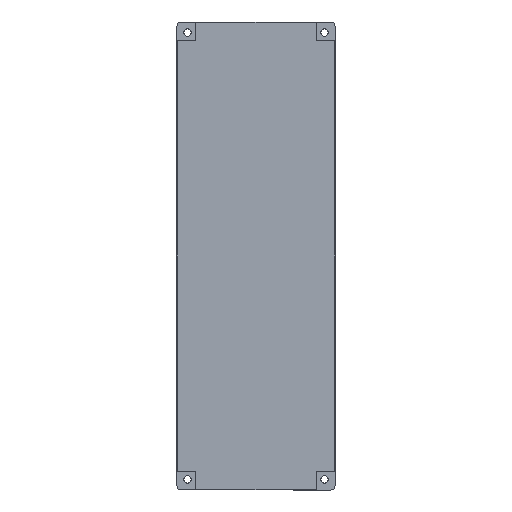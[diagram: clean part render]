
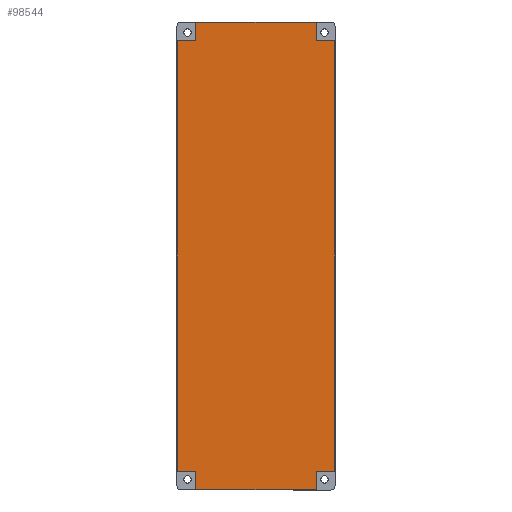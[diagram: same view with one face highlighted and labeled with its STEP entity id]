
A CAD part, front view. The second image highlights one B-rep face of the part: STEP entity #98544.
In plain terms, the highlighted planar face has unit normal (0, -1, 0).
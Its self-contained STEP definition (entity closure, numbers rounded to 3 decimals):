
#75160 = DIRECTION ( 'NONE',  ( 0., 0., -1. ) ) ;
#75161 = VECTOR ( 'NONE', #75160, 1000. ) ;
#75162 = CARTESIAN_POINT ( 'NONE',  ( -66., -8., -0.1 ) ) ;
#75163 = LINE ( 'NONE', #75162, #75161 ) ;
#75169 = CARTESIAN_POINT ( 'NONE',  ( -66., -8., -9. ) ) ;
#75200 = CARTESIAN_POINT ( 'NONE',  ( -74.9, -8., -9. ) ) ;
#75232 = CARTESIAN_POINT ( 'NONE',  ( -66., -8., -221.9 ) ) ;
#75233 = CARTESIAN_POINT ( 'NONE',  ( -66., -8., -213. ) ) ;
#75234 = CARTESIAN_POINT ( 'NONE',  ( -74.9, -8., -213. ) ) ;
#75238 = LINE ( 'NONE', #75287, #75286 ) ;
#75239 = DIRECTION ( 'NONE',  ( 0., 0., -1. ) ) ;
#75240 = VECTOR ( 'NONE', #75239, 1000. ) ;
#75241 = CARTESIAN_POINT ( 'NONE',  ( -66., -8., -0.1 ) ) ;
#75242 = LINE ( 'NONE', #75241, #75240 ) ;
#75285 = DIRECTION ( 'NONE',  ( 1., 0., 0. ) ) ;
#75286 = VECTOR ( 'NONE', #75285, 1000. ) ;
#75287 = CARTESIAN_POINT ( 'NONE',  ( -74.9, -8., -213. ) ) ;
#75304 = DIRECTION ( 'NONE',  ( -1., 0., 0. ) ) ;
#75305 = VECTOR ( 'NONE', #75304, 1000. ) ;
#75306 = CARTESIAN_POINT ( 'NONE',  ( -74.9, -8., -9. ) ) ;
#75308 = LINE ( 'NONE', #75306, #75305 ) ;
#75309 = DIRECTION ( 'NONE',  ( 0., 0., -1. ) ) ;
#75310 = VECTOR ( 'NONE', #75309, 1000. ) ;
#75311 = CARTESIAN_POINT ( 'NONE',  ( -74.9, -8., -0.1 ) ) ;
#75312 = LINE ( 'NONE', #75311, #75310 ) ;
#75360 = DIRECTION ( 'NONE',  ( 0., 0., 1. ) ) ;
#75361 = VECTOR ( 'NONE', #75360, 1000. ) ;
#75362 = CARTESIAN_POINT ( 'NONE',  ( -9., -8., -0.1 ) ) ;
#75363 = LINE ( 'NONE', #75362, #75361 ) ;
#75386 = CARTESIAN_POINT ( 'NONE',  ( -9., -8., -221.9 ) ) ;
#75444 = DIRECTION ( 'NONE',  ( 1., 0., 0. ) ) ;
#75445 = VECTOR ( 'NONE', #75444, 1000. ) ;
#75446 = CARTESIAN_POINT ( 'NONE',  ( -74.9, -8., -221.9 ) ) ;
#75447 = LINE ( 'NONE', #75446, #75445 ) ;
#75648 = FACE_OUTER_BOUND ( 'NONE', #98455, .T. ) ;
#75685 = DIRECTION ( 'NONE',  ( 0., 0., -1. ) ) ;
#75686 = DIRECTION ( 'NONE',  ( 0., -1., 0. ) ) ;
#75687 = CARTESIAN_POINT ( 'NONE',  ( -74.9, -8., -0.1 ) ) ;
#75688 = AXIS2_PLACEMENT_3D ( 'NONE', #75687, #75686, #75685 ) ;
#75689 = PLANE ( 'NONE',  #75688 ) ;
#94972 = DIRECTION ( 'NONE',  ( 0., 0., 1. ) ) ;
#94973 = VECTOR ( 'NONE', #94972, 1000. ) ;
#94974 = CARTESIAN_POINT ( 'NONE',  ( -0.1, -8., -0.1 ) ) ;
#94976 = LINE ( 'NONE', #94974, #94973 ) ;
#94981 = CARTESIAN_POINT ( 'NONE',  ( -0.1, -8., -9. ) ) ;
#95097 = DIRECTION ( 'NONE',  ( -1., 0., 0. ) ) ;
#95099 = VECTOR ( 'NONE', #95097, 1000. ) ;
#95101 = CARTESIAN_POINT ( 'NONE',  ( -74.9, -8., -9. ) ) ;
#95102 = LINE ( 'NONE', #95101, #95099 ) ;
#95108 = CARTESIAN_POINT ( 'NONE',  ( -9., -8., -9. ) ) ;
#95202 = DIRECTION ( 'NONE',  ( 0., 0., 1. ) ) ;
#95204 = VECTOR ( 'NONE', #95202, 1000. ) ;
#95206 = CARTESIAN_POINT ( 'NONE',  ( -9., -8., -0.1 ) ) ;
#95207 = LINE ( 'NONE', #95206, #95204 ) ;
#95227 = CARTESIAN_POINT ( 'NONE',  ( -9., -8., -0.1 ) ) ;
#95283 = CARTESIAN_POINT ( 'NONE',  ( -66., -8., -0.1 ) ) ;
#95628 = CARTESIAN_POINT ( 'NONE',  ( -9., -8., -213. ) ) ;
#95630 = DIRECTION ( 'NONE',  ( 1., 0., 0. ) ) ;
#95632 = VECTOR ( 'NONE', #95630, 1000. ) ;
#95633 = CARTESIAN_POINT ( 'NONE',  ( -74.9, -8., -213. ) ) ;
#95635 = LINE ( 'NONE', #95633, #95632 ) ;
#95640 = CARTESIAN_POINT ( 'NONE',  ( -0.1, -8., -213. ) ) ;
#96057 = DIRECTION ( 'NONE',  ( -1., 0., 0. ) ) ;
#96059 = VECTOR ( 'NONE', #96057, 1000. ) ;
#96061 = CARTESIAN_POINT ( 'NONE',  ( -74.9, -8., -0.1 ) ) ;
#96062 = LINE ( 'NONE', #96061, #96059 ) ;
#98220 = VERTEX_POINT ( 'NONE', #75169 ) ;
#98228 = EDGE_CURVE ( 'NONE', #102886, #98220, #75163, .T. ) ;
#98232 = VERTEX_POINT ( 'NONE', #75200 ) ;
#98274 = ORIENTED_EDGE ( 'NONE', *, *, #98326, .T. ) ;
#98275 = ORIENTED_EDGE ( 'NONE', *, *, #98304, .T. ) ;
#98276 = VERTEX_POINT ( 'NONE', #75234 ) ;
#98277 = VERTEX_POINT ( 'NONE', #75233 ) ;
#98278 = VERTEX_POINT ( 'NONE', #75232 ) ;
#98296 = EDGE_CURVE ( 'NONE', #98277, #98278, #75242, .T. ) ;
#98304 = EDGE_CURVE ( 'NONE', #98276, #98277, #75238, .T. ) ;
#98326 = EDGE_CURVE ( 'NONE', #98232, #98276, #75312, .T. ) ;
#98333 = EDGE_CURVE ( 'NONE', #98220, #98232, #75308, .T. ) ;
#98363 = EDGE_CURVE ( 'NONE', #98383, #102959, #75363, .T. ) ;
#98371 = ORIENTED_EDGE ( 'NONE', *, *, #98363, .T. ) ;
#98373 = ORIENTED_EDGE ( 'NONE', *, *, #102958, .T. ) ;
#98383 = VERTEX_POINT ( 'NONE', #75386 ) ;
#98387 = ORIENTED_EDGE ( 'NONE', *, *, #102832, .T. ) ;
#98388 = ORIENTED_EDGE ( 'NONE', *, *, #102868, .T. ) ;
#98423 = ORIENTED_EDGE ( 'NONE', *, *, #102877, .T. ) ;
#98425 = ORIENTED_EDGE ( 'NONE', *, *, #103039, .T. ) ;
#98426 = ORIENTED_EDGE ( 'NONE', *, *, #98228, .T. ) ;
#98427 = ORIENTED_EDGE ( 'NONE', *, *, #98333, .T. ) ;
#98428 = EDGE_CURVE ( 'NONE', #98278, #98383, #75447, .T. ) ;
#98430 = ORIENTED_EDGE ( 'NONE', *, *, #98296, .T. ) ;
#98455 = EDGE_LOOP ( 'NONE', ( #98480, #98371, #98373, #98387, #98388, #98423, #98425, #98426, #98427, #98274, #98275, #98430 ) ) ;
#98480 = ORIENTED_EDGE ( 'NONE', *, *, #98428, .T. ) ;
#98544 = ADVANCED_FACE ( 'NONE', ( #75648 ), #75689, .T. ) ;
#102829 = VERTEX_POINT ( 'NONE', #94981 ) ;
#102832 = EDGE_CURVE ( 'NONE', #102955, #102829, #94976, .T. ) ;
#102866 = VERTEX_POINT ( 'NONE', #95108 ) ;
#102868 = EDGE_CURVE ( 'NONE', #102829, #102866, #95102, .T. ) ;
#102877 = EDGE_CURVE ( 'NONE', #102866, #102893, #95207, .T. ) ;
#102886 = VERTEX_POINT ( 'NONE', #95283 ) ;
#102893 = VERTEX_POINT ( 'NONE', #95227 ) ;
#102955 = VERTEX_POINT ( 'NONE', #95640 ) ;
#102958 = EDGE_CURVE ( 'NONE', #102959, #102955, #95635, .T. ) ;
#102959 = VERTEX_POINT ( 'NONE', #95628 ) ;
#103039 = EDGE_CURVE ( 'NONE', #102893, #102886, #96062, .T. ) ;
